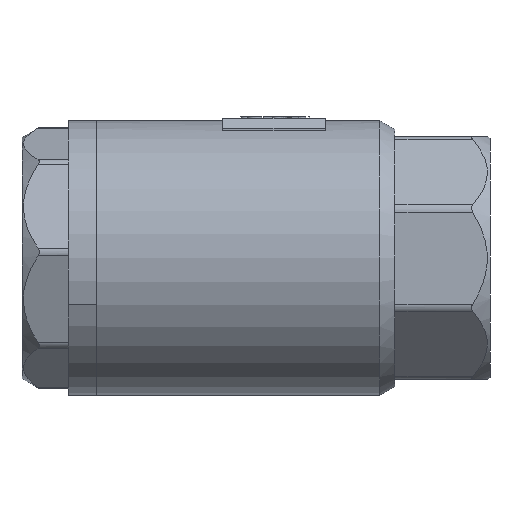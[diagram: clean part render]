
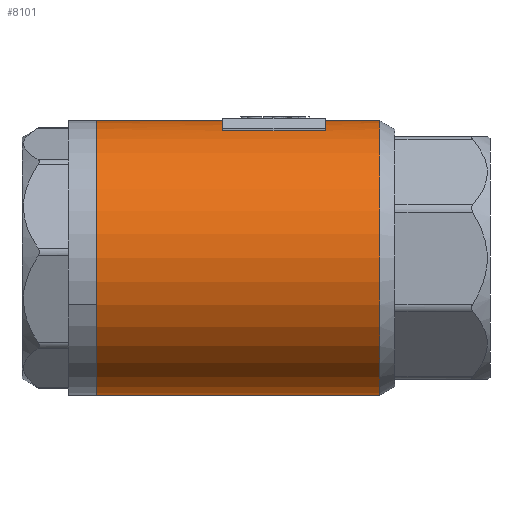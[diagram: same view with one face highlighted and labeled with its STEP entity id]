
A CAD part, front view. The second image highlights one B-rep face of the part: STEP entity #8101.
In plain terms, the highlighted cylindrical face has radius 26.7 mm (diameter 53.4 mm), a partial arc.
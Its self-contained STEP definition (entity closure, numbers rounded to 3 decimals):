
#254 = ORIENTED_EDGE ( 'NONE', *, *, #17150, .F. ) ;
#629 = VERTEX_POINT ( 'NONE', #8495 ) ;
#1274 = DIRECTION ( 'NONE',  ( 1., 0., 0. ) ) ;
#1650 = VERTEX_POINT ( 'NONE', #14690 ) ;
#2993 = VERTEX_POINT ( 'NONE', #23033 ) ;
#3154 = VERTEX_POINT ( 'NONE', #14707 ) ;
#3339 = CARTESIAN_POINT ( 'NONE',  ( 23.806, -19.284, 24.757 ) ) ;
#3649 = FACE_OUTER_BOUND ( 'NONE', #11064, .T. ) ;
#3767 = DIRECTION ( 'NONE',  ( 1., 0., 0. ) ) ;
#4107 = VECTOR ( 'NONE', #5136, 1000. ) ;
#4169 = ORIENTED_EDGE ( 'NONE', *, *, #14435, .T. ) ;
#4333 = CARTESIAN_POINT ( 'NONE',  ( 23.806, -9.284, 0. ) ) ;
#4412 = DIRECTION ( 'NONE',  ( 1., 0., 0. ) ) ;
#4580 = CIRCLE ( 'NONE', #9010, 26.7 ) ;
#4588 = CARTESIAN_POINT ( 'NONE',  ( 10.306, -19.284, 24.757 ) ) ;
#4837 = EDGE_CURVE ( 'NONE', #7543, #629, #4580, .T. ) ;
#4876 = DIRECTION ( 'NONE',  ( 1., 0., 0. ) ) ;
#5118 = CARTESIAN_POINT ( 'NONE',  ( -9.694, -19.284, 24.757 ) ) ;
#5136 = DIRECTION ( 'NONE',  ( -1., 0., 0. ) ) ;
#6461 = ORIENTED_EDGE ( 'NONE', *, *, #4837, .T. ) ;
#6929 = VERTEX_POINT ( 'NONE', #5118 ) ;
#7070 = CARTESIAN_POINT ( 'NONE',  ( -9.694, -9.284, 26.7 ) ) ;
#7275 = ORIENTED_EDGE ( 'NONE', *, *, #8904, .F. ) ;
#7543 = VERTEX_POINT ( 'NONE', #22155 ) ;
#7929 = EDGE_CURVE ( 'NONE', #7543, #15789, #10650, .T. ) ;
#8101 = ADVANCED_FACE ( 'NONE', ( #3649 ), #12578, .T. ) ;
#8495 = CARTESIAN_POINT ( 'NONE',  ( -34.194, -9.284, -26.7 ) ) ;
#8904 = EDGE_CURVE ( 'NONE', #2993, #3154, #23006, .T. ) ;
#8971 = CARTESIAN_POINT ( 'NONE',  ( -9.694, -9.284, 0. ) ) ;
#9010 = AXIS2_PLACEMENT_3D ( 'NONE', #15046, #4412, #16802 ) ;
#9451 = CARTESIAN_POINT ( 'NONE',  ( 20.861, -9.284, 0. ) ) ;
#9999 = LINE ( 'NONE', #3339, #4107 ) ;
#10605 = VERTEX_POINT ( 'NONE', #4588 ) ;
#10650 = LINE ( 'NONE', #14442, #15863 ) ;
#10732 = EDGE_CURVE ( 'NONE', #629, #3154, #13314, .T. ) ;
#10780 = DIRECTION ( 'NONE',  ( 0., 0., -1. ) ) ;
#11009 = AXIS2_PLACEMENT_3D ( 'NONE', #4333, #20247, #16721 ) ;
#11064 = EDGE_LOOP ( 'NONE', ( #13428, #6461, #18322, #7275, #254, #21089, #4169, #11994 ) ) ;
#11257 = DIRECTION ( 'NONE',  ( 0., 0., -1. ) ) ;
#11994 = ORIENTED_EDGE ( 'NONE', *, *, #15333, .T. ) ;
#12498 = CIRCLE ( 'NONE', #18823, 26.7 ) ;
#12578 = CYLINDRICAL_SURFACE ( 'NONE', #11009, 26.7 ) ;
#13314 = LINE ( 'NONE', #20732, #22124 ) ;
#13428 = ORIENTED_EDGE ( 'NONE', *, *, #7929, .F. ) ;
#13500 = VECTOR ( 'NONE', #3767, 1000. ) ;
#14052 = LINE ( 'NONE', #19667, #13500 ) ;
#14435 = EDGE_CURVE ( 'NONE', #10605, #6929, #9999, .T. ) ;
#14442 = CARTESIAN_POINT ( 'NONE',  ( 23.806, -9.284, 26.7 ) ) ;
#14690 = CARTESIAN_POINT ( 'NONE',  ( 10.306, -9.284, 26.7 ) ) ;
#14707 = CARTESIAN_POINT ( 'NONE',  ( 20.861, -9.284, -26.7 ) ) ;
#15046 = CARTESIAN_POINT ( 'NONE',  ( -34.194, -9.284, 0. ) ) ;
#15333 = EDGE_CURVE ( 'NONE', #6929, #15789, #19008, .T. ) ;
#15497 = CARTESIAN_POINT ( 'NONE',  ( 10.306, -9.284, 0. ) ) ;
#15789 = VERTEX_POINT ( 'NONE', #7070 ) ;
#15863 = VECTOR ( 'NONE', #16201, 1000. ) ;
#16201 = DIRECTION ( 'NONE',  ( 1., 0., 0. ) ) ;
#16721 = DIRECTION ( 'NONE',  ( 0., 0., -1. ) ) ;
#16802 = DIRECTION ( 'NONE',  ( 0., 0., -1. ) ) ;
#17150 = EDGE_CURVE ( 'NONE', #1650, #2993, #14052, .T. ) ;
#17241 = DIRECTION ( 'NONE',  ( 0., 0., 1. ) ) ;
#17618 = AXIS2_PLACEMENT_3D ( 'NONE', #9451, #21773, #11257 ) ;
#18322 = ORIENTED_EDGE ( 'NONE', *, *, #10732, .T. ) ;
#18823 = AXIS2_PLACEMENT_3D ( 'NONE', #15497, #4876, #17241 ) ;
#19008 = CIRCLE ( 'NONE', #22174, 26.7 ) ;
#19667 = CARTESIAN_POINT ( 'NONE',  ( 23.806, -9.284, 26.7 ) ) ;
#20247 = DIRECTION ( 'NONE',  ( 1., 0., 0. ) ) ;
#20732 = CARTESIAN_POINT ( 'NONE',  ( 23.806, -9.284, -26.7 ) ) ;
#21089 = ORIENTED_EDGE ( 'NONE', *, *, #22960, .T. ) ;
#21296 = DIRECTION ( 'NONE',  ( -1., 0., 0. ) ) ;
#21773 = DIRECTION ( 'NONE',  ( 1., 0., 0. ) ) ;
#22124 = VECTOR ( 'NONE', #1274, 1000. ) ;
#22155 = CARTESIAN_POINT ( 'NONE',  ( -34.194, -9.284, 26.7 ) ) ;
#22174 = AXIS2_PLACEMENT_3D ( 'NONE', #8971, #21296, #10780 ) ;
#22960 = EDGE_CURVE ( 'NONE', #1650, #10605, #12498, .T. ) ;
#23006 = CIRCLE ( 'NONE', #17618, 26.7 ) ;
#23033 = CARTESIAN_POINT ( 'NONE',  ( 20.861, -9.284, 26.7 ) ) ;
